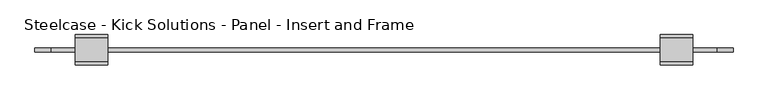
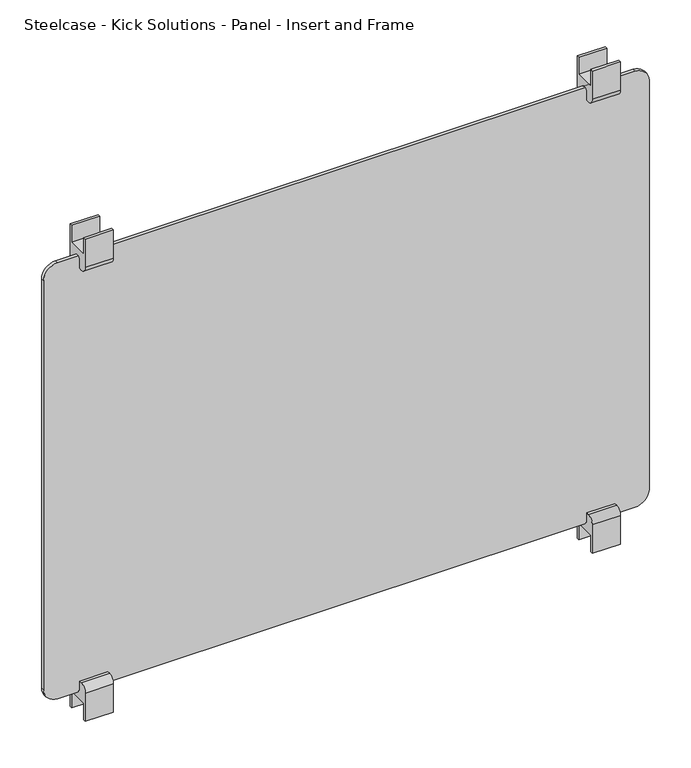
"""IFC4 building model written with IfcOpenShell, lengths in millimetres: furniture geometry, Steelcase - Kick Solutions - Panel - Insert and Frame : Laminate - 42H x 48W."""

from ifc_helpers import new_model, si_unit, point, frame, frame_2d, origin, place, context, project, spatial, polyline, circle_curve, trimmed, segment, composite_curve, outline, extrude, source, transform, mapped, element, save


def steelcase_kick_solutions_panel_insert_and_frame_412840a7(model_context):
    return source(origin(), model_context, "Body", "SweptSolid", [
        extrude(outline(composite_curve([segment(polyline([(5.3821989, 1041.4), (10.144699, 1041.4), (10.144699, 986.713221)]), True, "CONTINUOUS"), segment(trimmed(circle_curve(frame_2d((-1.6831687, 986.713221)), 11.8278677), [point((10.144699, 986.713221))], [point((-1.6831687, 974.8853533))], False, "CARTESIAN"), True, "CONTINUOUS"), segment(polyline([(-1.6831687, 974.8853533), (-7.3178012, 974.8853533), (-7.3178012, 990.2857521)]), True, "CONTINUOUS"), segment(trimmed(circle_curve(frame_2d((-13.667801, 990.2857521)), 6.3499998), [point((-7.3178012, 990.2857521))], [point((-20.0178007, 990.2857521))], True, "CARTESIAN"), True, "CONTINUOUS"), segment(polyline([(-20.0178007, 990.2857521), (-20.0178007, 974.8853527), (-25.2074988, 974.8853527)]), True, "CONTINUOUS"), segment(trimmed(circle_curve(frame_2d((-25.2074988, 987.1581549)), 12.2728022), [point((-25.2074988, 974.8853527))], [point((-37.480301, 987.1581549))], False, "CARTESIAN"), True, "CONTINUOUS"), segment(polyline([(-37.480301, 987.1581549), (-37.480301, 1041.4), (-32.7177988, 1041.4), (-32.7177988, 1009.6499758), (5.3821989, 1009.6499758), (5.3821989, 1041.4)]), True, "CONTINUOUS")], self_intersect=False)), frame((1042.3148583, 0.0, 0.0), z_axis=(1.0, 0.0, 0.0), x_axis=(0.0, 1.0, 0.0)), (0.0, 0.0, 1.0), 50.8),
        extrude(outline(composite_curve([segment(polyline([(5.3821989, 120.6499576), (5.3821989, 152.3999815), (-32.7177988, 152.3999815), (-32.7177988, 120.6499576), (-37.480301, 120.6499576), (-37.480301, 174.8918024)]), True, "CONTINUOUS"), segment(trimmed(circle_curve(frame_2d((-25.2074988, 174.8918024)), 12.2728022), [point((-37.480301, 174.8918024))], [point((-25.2074988, 187.1646046))], False, "CARTESIAN"), True, "CONTINUOUS"), segment(polyline([(-25.2074988, 187.1646046), (-20.0178007, 187.1646046), (-20.0178007, 171.7642058)]), True, "CONTINUOUS"), segment(trimmed(circle_curve(frame_2d((-13.667801, 171.7642058)), 6.3499998), [point((-20.0178007, 171.7642058))], [point((-7.3178012, 171.7642058))], True, "CARTESIAN"), True, "CONTINUOUS"), segment(polyline([(-7.3178012, 171.7642058), (-7.3178012, 187.1646046), (-1.6831687, 187.1646046)]), True, "CONTINUOUS"), segment(trimmed(circle_curve(frame_2d((-1.6831687, 175.3367369)), 11.8278677), [point((-1.6831687, 187.1646046))], [point((10.144699, 175.3367369))], False, "CARTESIAN"), True, "CONTINUOUS"), segment(polyline([(10.144699, 175.3367369), (10.144699, 120.6499576), (5.3821989, 120.6499576)]), True, "CONTINUOUS")], self_intersect=False)), frame((1042.3148583, 0.0, 0.0), z_axis=(1.0, 0.0, 0.0), x_axis=(0.0, 1.0, 0.0)), (0.0, 0.0, 1.0), 50.8),
        extrude(outline(composite_curve([segment(polyline([(5.3821989, 1041.4), (10.144699, 1041.4), (10.144699, 986.7132204)]), True, "CONTINUOUS"), segment(trimmed(circle_curve(frame_2d((-1.6831684, 986.7132204)), 11.8278674), [point((10.144699, 986.7132204))], [point((-1.6831684, 974.885353))], False, "CARTESIAN"), True, "CONTINUOUS"), segment(polyline([(-1.6831684, 974.885353), (-7.3178009, 974.885353), (-7.3178009, 990.2857521)]), True, "CONTINUOUS"), segment(trimmed(circle_curve(frame_2d((-13.667801, 990.2857521)), 6.3500001), [point((-7.3178009, 990.2857521))], [point((-20.017801, 990.2857521))], True, "CARTESIAN"), True, "CONTINUOUS"), segment(polyline([(-20.017801, 990.2857521), (-20.017801, 974.885353), (-25.2074991, 974.885353)]), True, "CONTINUOUS"), segment(trimmed(circle_curve(frame_2d((-25.2074991, 987.1581549)), 12.2728019), [point((-25.2074991, 974.885353))], [point((-37.480301, 987.1581549))], False, "CARTESIAN"), True, "CONTINUOUS"), segment(polyline([(-37.480301, 987.1581549), (-37.480301, 1041.4), (-32.7177988, 1041.4), (-32.7177988, 1009.6499758), (5.3821989, 1009.6499758), (5.3821989, 1041.4)]), True, "CONTINUOUS")], self_intersect=False)), frame((126.0851417, 0.0, 0.0), z_axis=(1.0, 0.0, 0.0), x_axis=(0.0, 1.0, 0.0)), (0.0, 0.0, 1.0), 50.8),
        extrude(outline(composite_curve([segment(polyline([(5.3821989, 120.6499576), (5.3821989, 152.3999818), (-32.7177988, 152.3999818), (-32.7177988, 120.6499576), (-37.480301, 120.6499576), (-37.480301, 174.8918027)]), True, "CONTINUOUS"), segment(trimmed(circle_curve(frame_2d((-25.2074991, 174.8918027)), 12.2728019), [point((-37.480301, 174.8918027))], [point((-25.2074991, 187.1646046))], False, "CARTESIAN"), True, "CONTINUOUS"), segment(polyline([(-25.2074991, 187.1646046), (-20.017801, 187.1646046), (-20.017801, 171.7642055)]), True, "CONTINUOUS"), segment(trimmed(circle_curve(frame_2d((-13.667801, 171.7642055)), 6.3500001), [point((-20.017801, 171.7642055))], [point((-7.3178009, 171.7642055))], True, "CARTESIAN"), True, "CONTINUOUS"), segment(polyline([(-7.3178009, 171.7642055), (-7.3178009, 187.1646041), (-1.6831684, 187.1646041)]), True, "CONTINUOUS"), segment(trimmed(circle_curve(frame_2d((-1.6831684, 175.3367366)), 11.8278674), [point((-1.6831684, 187.1646041))], [point((10.144699, 175.3367366))], False, "CARTESIAN"), True, "CONTINUOUS"), segment(polyline([(10.144699, 175.3367366), (10.144699, 120.6499576), (5.3821989, 120.6499576)]), True, "CONTINUOUS")], self_intersect=False)), frame((126.0851417, 0.0, 0.0), z_axis=(1.0, 0.0, 0.0), x_axis=(0.0, 1.0, 0.0)), (0.0, 0.0, 1.0), 50.8),
        extrude(outline(composite_curve([segment(polyline([(996.9499516, 1131.2148583), (996.9499516, 87.9851417)]), True, "CONTINUOUS"), segment(trimmed(circle_curve(frame_2d((971.5499516, 87.9851417)), 25.4), [point((996.9499516, 87.9851417))], [point((971.5499516, 62.5851417))], False, "CARTESIAN"), True, "CONTINUOUS"), segment(polyline([(971.5499516, 62.5851417), (190.5000061, 62.5851417)]), True, "CONTINUOUS"), segment(trimmed(circle_curve(frame_2d((190.5000061, 87.9851417)), 25.4), [point((190.5000061, 62.5851417))], [point((165.1000061, 87.9851417))], False, "CARTESIAN"), True, "CONTINUOUS"), segment(polyline([(165.1000061, 87.9851417), (165.1000061, 1131.2148583)]), True, "CONTINUOUS"), segment(trimmed(circle_curve(frame_2d((190.5000061, 1131.2148583)), 25.4), [point((165.1000061, 1131.2148583))], [point((190.5000061, 1156.6148583))], False, "CARTESIAN"), True, "CONTINUOUS"), segment(polyline([(190.5000061, 1156.6148583), (971.5499516, 1156.6148583)]), True, "CONTINUOUS"), segment(trimmed(circle_curve(frame_2d((971.5499516, 1131.2148583)), 25.4), [point((971.5499516, 1156.6148583))], [point((996.9499516, 1131.2148583))], False, "CARTESIAN"), True, "CONTINUOUS")], self_intersect=False)), frame((0.0, -16.8428004, 0.0), z_axis=(0.0, 1.0, 0.0), x_axis=(0.0, 0.0, 1.0)), (0.0, 0.0, 1.0), 6.3499985),
    ])


if __name__ == "__main__":
    model = new_model("IFC4")
    model_context = context("Model", 3, world=origin())
    ifc_project = project(units=[si_unit("LENGTHUNIT", "METRE", prefix="MILLI")], contexts=[model_context])
    site = spatial("IfcSite", under=ifc_project)
    building = spatial("IfcBuilding", under=site)
    placement = place(None, origin())
    steelcase_kick_solutions_panel_insert_and_frame_shape = steelcase_kick_solutions_panel_insert_and_frame_412840a7(model_context)
    element("IfcFurniture", 1, ObjectType="Steelcase - Kick Solutions - Panel - Insert and Frame : Laminate - 42H x 48W", at=placement, inside=building, context=model_context, shape_type="MappedRepresentation", body=[
        mapped(steelcase_kick_solutions_panel_insert_and_frame_shape, transform((0.0, 0.0, 0.0), x_axis=(1.0, 0.0, 0.0), y_axis=(0.0, 1.0, 0.0), z_axis=(0.0, 0.0, 1.0))),
    ])
    save(model, "model.ifc")
